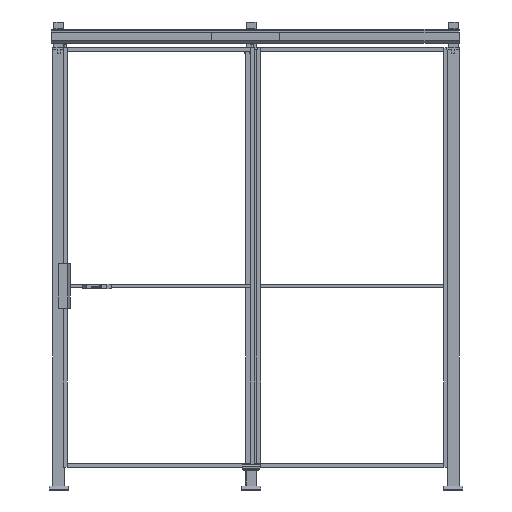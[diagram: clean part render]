
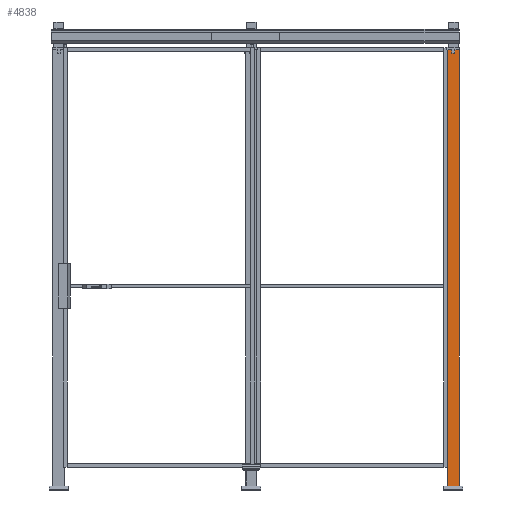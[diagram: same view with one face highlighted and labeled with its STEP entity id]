
A CAD part, front view. The second image highlights one B-rep face of the part: STEP entity #4838.
In plain terms, the highlighted planar face has unit normal (0, -1, 0).
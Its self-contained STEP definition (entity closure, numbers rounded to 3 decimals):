
#489=FACE_OUTER_BOUND('',#836,.T.);
#836=EDGE_LOOP('',(#3103,#3104,#3105,#3106));
#1239=VERTEX_POINT('',#10199);
#1242=VERTEX_POINT('',#10204);
#1244=VERTEX_POINT('',#10209);
#1245=VERTEX_POINT('',#10211);
#1968=EDGE_CURVE('',#1242,#1239,#5647,.T.);
#1970=EDGE_CURVE('',#1244,#1245,#5649,.T.);
#1973=EDGE_CURVE('',#1242,#1245,#5652,.T.);
#1974=EDGE_CURVE('',#1239,#1244,#5653,.T.);
#3103=ORIENTED_EDGE('',*,*,#1973,.T.);
#3104=ORIENTED_EDGE('',*,*,#1970,.F.);
#3105=ORIENTED_EDGE('',*,*,#1974,.F.);
#3106=ORIENTED_EDGE('',*,*,#1968,.F.);
#4528=PLANE('',#7239);
#4838=ADVANCED_FACE('',(#489),#4528,.F.);
#5647=LINE('',#10206,#6521);
#5649=LINE('',#10212,#6523);
#5652=LINE('',#10217,#6526);
#5653=LINE('',#10218,#6527);
#6521=VECTOR('',#8105,1.);
#6523=VECTOR('',#8109,1.);
#6526=VECTOR('',#8114,1.);
#6527=VECTOR('',#8115,1.);
#7239=AXIS2_PLACEMENT_3D('',#10216,#8112,#8113);
#8105=DIRECTION('',(1.,0.,0.));
#8109=DIRECTION('',(-1.,0.,0.));
#8112=DIRECTION('center_axis',(0.,1.,0.));
#8113=DIRECTION('ref_axis',(0.,0.,1.));
#8114=DIRECTION('',(0.,0.,-1.));
#8115=DIRECTION('',(0.,0.,-1.));
#10199=CARTESIAN_POINT('',(30.,-30.,2320.));
#10204=CARTESIAN_POINT('',(-30.,-30.,2320.));
#10206=CARTESIAN_POINT('',(0.,-30.,2320.));
#10209=CARTESIAN_POINT('',(30.,-30.,20.));
#10211=CARTESIAN_POINT('',(-30.,-30.,20.));
#10212=CARTESIAN_POINT('',(0.,-30.,20.));
#10216=CARTESIAN_POINT('Origin',(0.,-30.,
1170.));
#10217=CARTESIAN_POINT('',(-30.,-30.,1170.));
#10218=CARTESIAN_POINT('',(30.,-30.,1170.));
